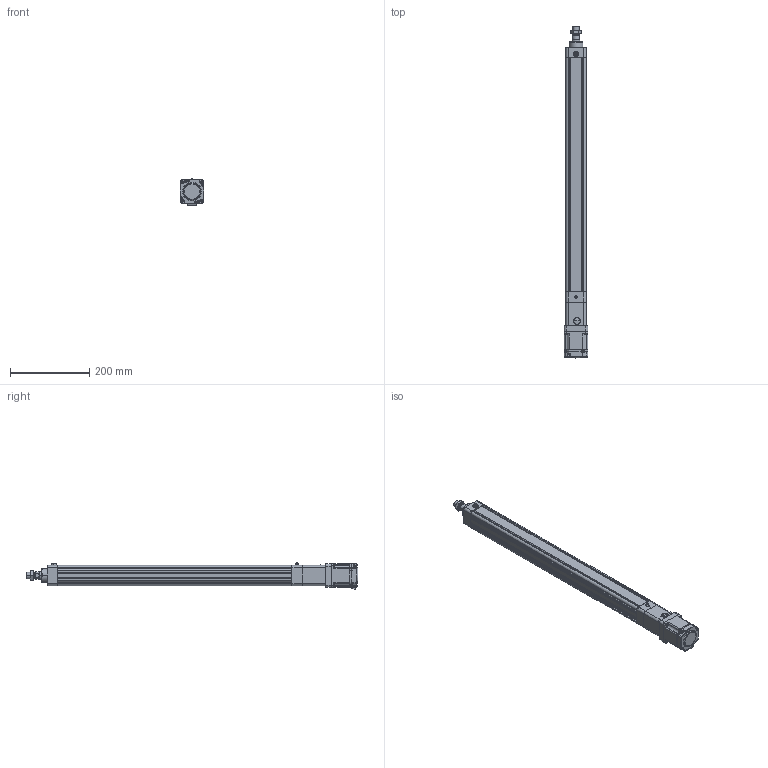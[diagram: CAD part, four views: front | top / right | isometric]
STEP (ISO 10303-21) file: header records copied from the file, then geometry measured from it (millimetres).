
FILE_DESCRIPTION((''),'2;1');
FILE_NAME('HE40-D-100_ASM','2020-04-07T',('ASUS20200'),(''),'CREO PARAMETRIC BY PTC INC, 2014190','CREO PARAMETRIC BY PTC INC, 2014190','');
FILE_SCHEMA(('CONFIG_CONTROL_DESIGN'));
Length unit declared in the file: millimetre
Products named in the file (16): HE40-D-P-001-X1; HE40-D-P-002-X1; HE40-D-P-003-X1; HE40-D-009-X1; HE40-D-010-X1; SLM-01; YZ-M6X1; JDB202820; SKT-13; HE40-D-P-005-X1; HE40-D-P-004-X1; HE40-D-P-008-X1; LGLM-M6-22; _MHMF022L1A2; MHMF022L1A2M2_1_ASM; HE40-D-100_ASM
Assembly tree (18 placements, depth 3):
  HE40-D-100_ASM
    HE40-D-P-001-X1
    HE40-D-P-002-X1
    HE40-D-P-003-X1
    HE40-D-009-X1
    HE40-D-010-X1
    SLM-01
    YZ-M6X1
    JDB202820
    SKT-13
    HE40-D-P-005-X1
    HE40-D-P-004-X1
    HE40-D-P-008-X1
    LGLM-M6-22  x4
    MHMF022L1A2M2_1_ASM
      _MHMF022L1A2
Bounding box: 60 x 838.5 x 69.4 mm (x, y, z)
Volume: 1084055.4 mm3; surface area: 414009.7 mm2
Topology: 17 solids, 42 shells, 1631 faces, 3931 edges, 2403 vertices
Faces by surface type: plane 573, cylinder 521, cone 463, torus 46, sphere 24, bspline 4
Entity records: 46006 total; most frequent: CARTESIAN_POINT 8869, DIRECTION 8203, ORIENTED_EDGE 7294, EDGE_CURVE 3691, AXIS2_PLACEMENT_3D 3139, VERTEX_POINT 2274, VECTOR 1925, LINE 1925
